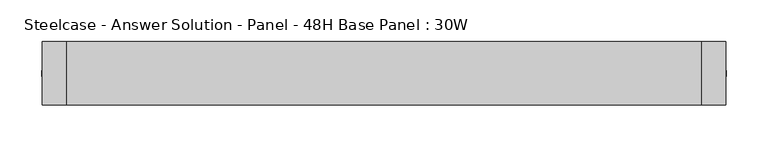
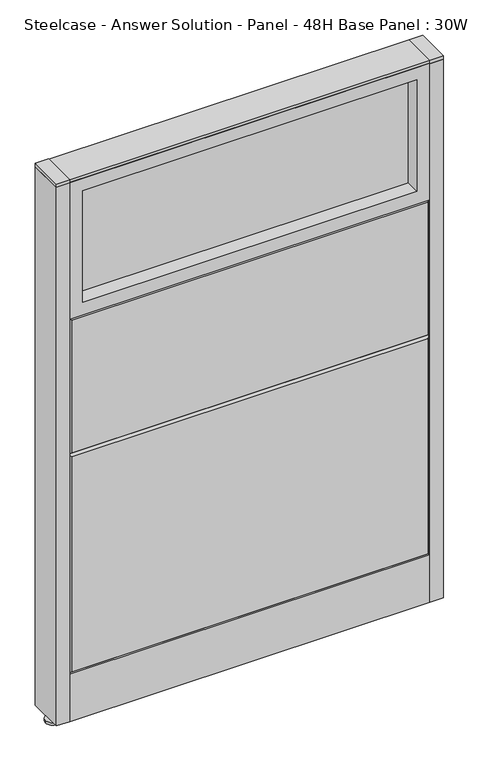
"""IFC4 building model written with IfcOpenShell, lengths in millimetres: furniture geometry, Steelcase - Answer Solution - Panel - 48H Base Panel : 30W."""

from ifc_helpers import new_model, si_unit, point, frame, frame_2d, origin, place, context, project, spatial, polyline, circle_curve, trimmed, segment, composite_curve, outline, extrude, faceted_brep, source, transform, mapped, element, save


def steelcase_answer_solution_panel_48h_base_panel_30w_316c0708(model_context):
    return source(origin(), model_context, "Body", "SolidModel", [
        extrude(outline(composite_curve([segment(trimmed(circle_curve(frame_2d((395.224, 0.0320214)), 5.08), [point((400.304, 0.0320214))], [point((390.144, 0.0320214))], False, "CARTESIAN"), True, "CONTINUOUS"), segment(trimmed(circle_curve(frame_2d((395.224, 0.0320214)), 5.08), [point((390.144, 0.0320214))], [point((400.304, 0.0320214))], False, "CARTESIAN"), True, "CONTINUOUS")], self_intersect=False)), frame((0.0, 0.0, 5.0799671), z_axis=(0.0, 0.0, 1.0), x_axis=(1.0, 0.0, 0.0)), (0.0, 0.0, 1.0), 10.414),
        extrude(outline(composite_curve([segment(trimmed(circle_curve(frame_2d((395.224, 0.0320214)), 15.24), [point((410.464, 0.0320214))], [point((379.984, 0.0320214))], False, "CARTESIAN"), True, "CONTINUOUS"), segment(trimmed(circle_curve(frame_2d((395.224, 0.0320214)), 15.24), [point((379.984, 0.0320214))], [point((410.464, 0.0320214))], False, "CARTESIAN"), True, "CONTINUOUS")], self_intersect=False)), frame((0.0, 0.0, -3.29e-05), z_axis=(0.0, 0.0, 1.0), x_axis=(1.0, 0.0, 0.0)), (0.0, 0.0, 1.0), 5.08),
        extrude(outline(polyline([(409.575, 38.1320408), (409.575, -38.0679592), (381.0, -38.0679592), (381.0, 38.1320408), (409.575, 38.1320408)])), frame((0.0, 0.0, 1218.2348), z_axis=(0.0, 0.0, 1.0), x_axis=(1.0, 0.0, 0.0)), (0.0, 0.0, 1.0), 7.3151671),
        extrude(outline(polyline([(409.575, 38.1320408), (409.575, -38.0679592), (381.0, -38.0679592), (381.0, 38.1320408), (409.575, 38.1320408)])), frame((0.0, 0.0, 15.4939671), z_axis=(0.0, 0.0, 1.0), x_axis=(1.0, 0.0, 0.0)), (0.0, 0.0, 1.0), 1202.7408329),
        extrude(outline(composite_curve([segment(trimmed(circle_curve(frame_2d((-395.224, 0.0320214)), 5.08), [point((-400.304, 0.0320214))], [point((-390.144, 0.0320214))], False, "CARTESIAN"), True, "CONTINUOUS"), segment(trimmed(circle_curve(frame_2d((-395.224, 0.0320214)), 5.08), [point((-390.144, 0.0320214))], [point((-400.304, 0.0320214))], False, "CARTESIAN"), True, "CONTINUOUS")], self_intersect=False)), frame((0.0, 0.0, 5.0799671), z_axis=(0.0, 0.0, 1.0), x_axis=(1.0, 0.0, 0.0)), (0.0, 0.0, 1.0), 10.414),
        extrude(outline(composite_curve([segment(trimmed(circle_curve(frame_2d((-395.224, 0.0320214)), 15.24), [point((-410.464, 0.0320214))], [point((-379.984, 0.0320214))], False, "CARTESIAN"), True, "CONTINUOUS"), segment(trimmed(circle_curve(frame_2d((-395.224, 0.0320214)), 15.24), [point((-379.984, 0.0320214))], [point((-410.464, 0.0320214))], False, "CARTESIAN"), True, "CONTINUOUS")], self_intersect=False)), frame((0.0, 0.0, -3.29e-05), z_axis=(0.0, 0.0, 1.0), x_axis=(1.0, 0.0, 0.0)), (0.0, 0.0, 1.0), 5.08),
        extrude(outline(polyline([(-409.575, 38.1320408), (-381.0, 38.1320408), (-381.0, -38.0679592), (-409.575, -38.0679592), (-409.575, 38.1320408)])), frame((0.0, 0.0, 1218.2348), z_axis=(0.0, 0.0, 1.0), x_axis=(1.0, 0.0, 0.0)), (0.0, 0.0, 1.0), 7.3151671),
        extrude(outline(polyline([(-409.575, 38.1320408), (-381.0, 38.1320408), (-381.0, -38.0679592), (-409.575, -38.0679592), (-409.575, 38.1320408)])), frame((0.0, 0.0, 15.4939671), z_axis=(0.0, 0.0, 1.0), x_axis=(1.0, 0.0, 0.0)), (0.0, 0.0, 1.0), 1202.7408329),
        extrude(outline(polyline([(-353.06, 6.346049), (353.06, 6.346049), (353.06, -6.353951), (-353.06, -6.353951), (-353.06, 6.346049)])), frame((0.0, 0.0, 942.34), z_axis=(0.0, 0.0, 1.0), x_axis=(1.0, 0.0, 0.0)), (0.0, 0.0, 1.0), 248.92),
        extrude(outline(polyline([(1219.2, -381.0), (914.4, -381.0), (914.4, 381.0), (1219.2, 381.0), (1219.2, -381.0)]), holes=[polyline([(1191.26, -353.06), (1191.26, 353.06), (942.34, 353.06), (942.34, -353.06), (1191.26, -353.06)])]), frame((0.0, -38.103951, 0.0), z_axis=(0.0, 1.0, 0.0), x_axis=(0.0, 0.0, 1.0)), (0.0, 0.0, 1.0), 76.2),
        faceted_brep([(-376.174, 38.1635011, 909.574), (376.174, 38.1635011, 909.574), (376.174, 38.1635011, 614.426), (-376.174, 38.1635011, 614.426), (-381.0, 33.3375011, 914.4), (-381.0, 33.3375011, 609.6), (381.0, 33.3375011, 609.6), (381.0, 33.3375011, 914.4)], [[[0, 1, 2, 3]], [[4, 5, 6, 7]], [[4, 7, 1, 0]], [[7, 6, 2, 1]], [[6, 5, 3, 2]], [[5, 4, 0, 3]]]),
        faceted_brep([(-376.174, 38.1635011, 604.774), (376.174, 38.1635011, 604.774), (376.174, 38.1635011, 125.476), (-376.174, 38.1635011, 125.476), (-381.0, 33.3375011, 609.6), (-381.0, 33.3375011, 120.65), (381.0, 33.3375011, 120.65), (381.0, 33.3375011, 609.6)], [[[0, 1, 2, 3]], [[4, 5, 6, 7]], [[4, 7, 1, 0]], [[7, 6, 2, 1]], [[6, 5, 3, 2]], [[5, 4, 0, 3]]]),
        extrude(outline(polyline([(353.06, -6.346049), (-353.06, -6.346049), (-353.06, 6.353951), (353.06, 6.353951), (353.06, -6.346049)])), frame((0.0, 0.0, 942.34), z_axis=(0.0, 0.0, 1.0), x_axis=(1.0, 0.0, 0.0)), (0.0, 0.0, 1.0), 248.92),
        extrude(outline(polyline([(1219.2, 381.0), (1219.2, -381.0), (914.4, -381.0), (914.4, 381.0), (1219.2, 381.0)]), holes=[polyline([(1191.26, 353.06), (942.34, 353.06), (942.34, -353.06), (1191.26, -353.06), (1191.26, 353.06)])]), frame((0.0, -38.096049, 0.0), z_axis=(0.0, 1.0, 0.0), x_axis=(0.0, 0.0, 1.0)), (0.0, 0.0, 1.0), 76.2),
        faceted_brep([(376.174, -38.1635011, 909.574), (-376.174, -38.1635011, 909.574), (-376.174, -38.1635011, 614.426), (376.174, -38.1635011, 614.426), (381.0, -33.3375011, 914.4), (381.0, -33.3375011, 609.6), (-381.0, -33.3375011, 609.6), (-381.0, -33.3375011, 914.4)], [[[0, 1, 2, 3]], [[4, 5, 6, 7]], [[4, 7, 1, 0]], [[7, 6, 2, 1]], [[6, 5, 3, 2]], [[5, 4, 0, 3]]]),
        faceted_brep([(376.174, -38.1635011, 604.774), (-376.174, -38.1635011, 604.774), (-376.174, -38.1635011, 125.476), (376.174, -38.1635011, 125.476), (381.0, -33.3375011, 609.6), (381.0, -33.3375011, 120.65), (-381.0, -33.3375011, 120.65), (-381.0, -33.3375011, 609.6)], [[[0, 1, 2, 3]], [[4, 5, 6, 7]], [[4, 7, 1, 0]], [[7, 6, 2, 1]], [[6, 5, 3, 2]], [[5, 4, 0, 3]]]),
        extrude(outline(polyline([(381.0, 38.1000194), (381.0, -38.1000194), (-381.0, -38.1000194), (-381.0, 38.1000194), (381.0, 38.1000194)])), frame((0.0, 0.0, 1219.2), z_axis=(0.0, 0.0, 1.0), x_axis=(1.0, 0.0, 0.0)), (0.0, 0.0, 1.0), 6.35),
        extrude(outline(polyline([(25.4000011, 119.8575157), (25.4000011, 120.65), (38.1000194, 120.65), (38.1000194, 15.494), (37.3075215, 15.494), (37.3075215, 119.8575157), (25.4000011, 119.8575157)])), frame((-381.0, 0.0, 0.0), z_axis=(1.0, 0.0, 0.0), x_axis=(0.0, 1.0, 0.0)), (0.0, 0.0, 1.0), 762.0),
        extrude(outline(polyline([(-25.4000011, 119.8575157), (-37.3075215, 119.8575157), (-37.3075215, 15.494), (-38.1000194, 15.494), (-38.1000194, 120.65), (-25.4000011, 120.65), (-25.4000011, 119.8575157)])), frame((-381.0, 0.0, 0.0), z_axis=(1.0, 0.0, 0.0), x_axis=(0.0, 1.0, 0.0)), (0.0, 0.0, 1.0), 762.0),
    ])


if __name__ == "__main__":
    model = new_model("IFC4")
    model_context = context("Model", 3, world=origin())
    ifc_project = project(units=[si_unit("LENGTHUNIT", "METRE", prefix="MILLI")], contexts=[model_context])
    site = spatial("IfcSite", under=ifc_project)
    building = spatial("IfcBuilding", under=site)
    placement = place(None, origin())
    steelcase_answer_solution_panel_48h_base_panel_30w_shape = steelcase_answer_solution_panel_48h_base_panel_30w_316c0708(model_context)
    element("IfcFurniture", 1, ObjectType="Steelcase - Answer Solution - Panel - 48H Base Panel : 30W", at=placement, inside=building, context=model_context, shape_type="MappedRepresentation", body=[
        mapped(steelcase_answer_solution_panel_48h_base_panel_30w_shape, transform((0.0, 0.0, 0.0), x_axis=(1.0, 0.0, 0.0), y_axis=(0.0, 1.0, 0.0), z_axis=(0.0, 0.0, 1.0))),
    ])
    save(model, "model.ifc")
